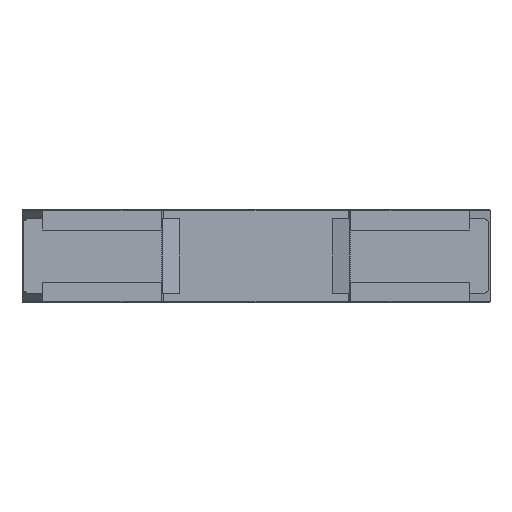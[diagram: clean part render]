
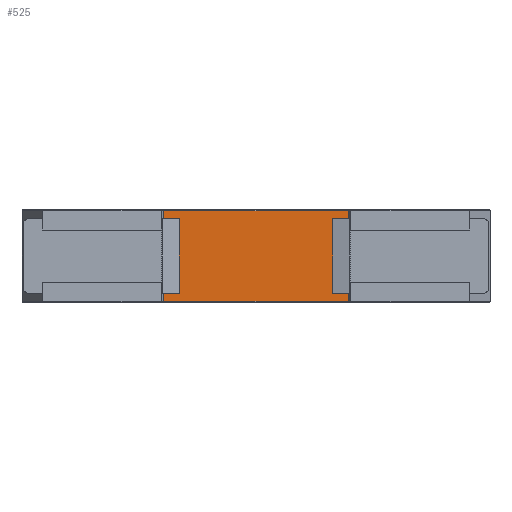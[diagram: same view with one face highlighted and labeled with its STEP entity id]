
A CAD part, front view. The second image highlights one B-rep face of the part: STEP entity #525.
In plain terms, the highlighted planar face has unit normal (0, -1, 0).
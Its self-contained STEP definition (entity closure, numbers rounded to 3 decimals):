
#479 = VECTOR ( 'NONE', #8931, 1000. ) ;
#525 = ADVANCED_FACE ( 'NONE', ( #3155 ), #9615, .F. ) ;
#554 = VECTOR ( 'NONE', #14030, 1000. ) ;
#752 = EDGE_CURVE ( 'NONE', #12938, #9794, #16422, .T. ) ;
#778 = ORIENTED_EDGE ( 'NONE', *, *, #9139, .T. ) ;
#1363 = EDGE_CURVE ( 'NONE', #9794, #19087, #16598, .T. ) ;
#1454 = LINE ( 'NONE', #9034, #14130 ) ;
#1535 = CARTESIAN_POINT ( 'NONE',  ( -17.5, 0., 8.9 ) ) ;
#2019 = CARTESIAN_POINT ( 'NONE',  ( -17.5, 0., 7.15 ) ) ;
#2022 = EDGE_CURVE ( 'NONE', #6781, #7654, #11041, .T. ) ;
#2251 = DIRECTION ( 'NONE',  ( -1., 0., 0. ) ) ;
#2781 = CARTESIAN_POINT ( 'NONE',  ( 44.75, 0., -7.15 ) ) ;
#3000 = VECTOR ( 'NONE', #13904, 1000. ) ;
#3155 = FACE_OUTER_BOUND ( 'NONE', #17018, .T. ) ;
#3334 = LINE ( 'NONE', #13974, #4479 ) ;
#3712 = CARTESIAN_POINT ( 'NONE',  ( 17.5, 0., 7.15 ) ) ;
#3923 = LINE ( 'NONE', #7839, #3000 ) ;
#4163 = VECTOR ( 'NONE', #2251, 1000. ) ;
#4327 = VERTEX_POINT ( 'NONE', #6510 ) ;
#4476 = DIRECTION ( 'NONE',  ( 0., 0., -1. ) ) ;
#4479 = VECTOR ( 'NONE', #11068, 1000. ) ;
#4617 = LINE ( 'NONE', #8024, #554 ) ;
#4785 = CARTESIAN_POINT ( 'NONE',  ( -17.5, 0., -7.15 ) ) ;
#5041 = VECTOR ( 'NONE', #18084, 1000. ) ;
#5197 = VECTOR ( 'NONE', #4476, 1000. ) ;
#5318 = VECTOR ( 'NONE', #8659, 1000. ) ;
#5469 = VERTEX_POINT ( 'NONE', #16382 ) ;
#5486 = ORIENTED_EDGE ( 'NONE', *, *, #17081, .T. ) ;
#5624 = CARTESIAN_POINT ( 'NONE',  ( 17.75, 0., 8.9 ) ) ;
#6354 = VECTOR ( 'NONE', #17531, 1000. ) ;
#6367 = CARTESIAN_POINT ( 'NONE',  ( -17.75, 0., 8.7 ) ) ;
#6510 = CARTESIAN_POINT ( 'NONE',  ( 17.5, 0., -7.15 ) ) ;
#6604 = CARTESIAN_POINT ( 'NONE',  ( 17.75, 0., -8.7 ) ) ;
#6648 = LINE ( 'NONE', #1535, #5041 ) ;
#6733 = ORIENTED_EDGE ( 'NONE', *, *, #12045, .F. ) ;
#6781 = VERTEX_POINT ( 'NONE', #6604 ) ;
#6798 = CARTESIAN_POINT ( 'NONE',  ( 17.75, 0., 7.15 ) ) ;
#6868 = EDGE_CURVE ( 'NONE', #18449, #12375, #18596, .T. ) ;
#7276 = ORIENTED_EDGE ( 'NONE', *, *, #14236, .F. ) ;
#7322 = EDGE_CURVE ( 'NONE', #6781, #5469, #4617, .T. ) ;
#7400 = CARTESIAN_POINT ( 'NONE',  ( 17.75, 0., 8.9 ) ) ;
#7654 = VERTEX_POINT ( 'NONE', #14080 ) ;
#7839 = CARTESIAN_POINT ( 'NONE',  ( -17.75, 0., -7.15 ) ) ;
#7896 = VERTEX_POINT ( 'NONE', #19103 ) ;
#8024 = CARTESIAN_POINT ( 'NONE',  ( -17.75, 0., -8.7 ) ) ;
#8052 = EDGE_CURVE ( 'NONE', #13827, #18449, #6648, .T. ) ;
#8129 = ORIENTED_EDGE ( 'NONE', *, *, #752, .F. ) ;
#8602 = ORIENTED_EDGE ( 'NONE', *, *, #11721, .T. ) ;
#8659 = DIRECTION ( 'NONE',  ( 0., 0., -1. ) ) ;
#8810 = VERTEX_POINT ( 'NONE', #3712 ) ;
#8931 = DIRECTION ( 'NONE',  ( 1., 0., 0. ) ) ;
#9034 = CARTESIAN_POINT ( 'NONE',  ( -44.75, 0., -7.15 ) ) ;
#9139 = EDGE_CURVE ( 'NONE', #7654, #4327, #19105, .T. ) ;
#9615 = PLANE ( 'NONE',  #9948 ) ;
#9794 = VERTEX_POINT ( 'NONE', #13807 ) ;
#9948 = AXIS2_PLACEMENT_3D ( 'NONE', #15500, #17284, #18759 ) ;
#10052 = VECTOR ( 'NONE', #19184, 1000. ) ;
#10300 = DIRECTION ( 'NONE',  ( -1., 0., 0. ) ) ;
#11041 = LINE ( 'NONE', #5624, #6354 ) ;
#11068 = DIRECTION ( 'NONE',  ( 0., 0., -1. ) ) ;
#11452 = CARTESIAN_POINT ( 'NONE',  ( -17.75, 0., 7.15 ) ) ;
#11721 = EDGE_CURVE ( 'NONE', #7896, #5469, #3334, .T. ) ;
#11801 = CARTESIAN_POINT ( 'NONE',  ( 17.5, 0., 8.9 ) ) ;
#12045 = EDGE_CURVE ( 'NONE', #19087, #8810, #15637, .T. ) ;
#12375 = VERTEX_POINT ( 'NONE', #12544 ) ;
#12544 = CARTESIAN_POINT ( 'NONE',  ( -17.75, 0., 7.15 ) ) ;
#12938 = VERTEX_POINT ( 'NONE', #6367 ) ;
#13727 = LINE ( 'NONE', #11801, #5318 ) ;
#13807 = CARTESIAN_POINT ( 'NONE',  ( 17.75, 0., 8.7 ) ) ;
#13827 = VERTEX_POINT ( 'NONE', #4785 ) ;
#13904 = DIRECTION ( 'NONE',  ( 0., 0., -1. ) ) ;
#13974 = CARTESIAN_POINT ( 'NONE',  ( -17.75, 0., -7.15 ) ) ;
#14030 = DIRECTION ( 'NONE',  ( -1., 0., 0. ) ) ;
#14080 = CARTESIAN_POINT ( 'NONE',  ( 17.75, 0., -7.15 ) ) ;
#14130 = VECTOR ( 'NONE', #15073, 1000. ) ;
#14221 = ORIENTED_EDGE ( 'NONE', *, *, #8052, .F. ) ;
#14236 = EDGE_CURVE ( 'NONE', #8810, #4327, #13727, .T. ) ;
#15073 = DIRECTION ( 'NONE',  ( -1., 0., 0. ) ) ;
#15500 = CARTESIAN_POINT ( 'NONE',  ( -17.75, 0., 8.9 ) ) ;
#15637 = LINE ( 'NONE', #16277, #18217 ) ;
#16073 = ORIENTED_EDGE ( 'NONE', *, *, #1363, .F. ) ;
#16277 = CARTESIAN_POINT ( 'NONE',  ( 44.75, 0., 7.15 ) ) ;
#16382 = CARTESIAN_POINT ( 'NONE',  ( -17.75, 0., -8.7 ) ) ;
#16422 = LINE ( 'NONE', #19132, #479 ) ;
#16598 = LINE ( 'NONE', #7400, #5197 ) ;
#16760 = ORIENTED_EDGE ( 'NONE', *, *, #18890, .T. ) ;
#17018 = EDGE_LOOP ( 'NONE', ( #16760, #8602, #17215, #18873, #778, #7276, #6733, #16073, #8129, #5486, #19435, #14221 ) ) ;
#17081 = EDGE_CURVE ( 'NONE', #12938, #12375, #3923, .T. ) ;
#17215 = ORIENTED_EDGE ( 'NONE', *, *, #7322, .F. ) ;
#17284 = DIRECTION ( 'NONE',  ( 0., 1., 0. ) ) ;
#17531 = DIRECTION ( 'NONE',  ( 0., 0., 1. ) ) ;
#18084 = DIRECTION ( 'NONE',  ( 0., 0., 1. ) ) ;
#18217 = VECTOR ( 'NONE', #10300, 1000. ) ;
#18449 = VERTEX_POINT ( 'NONE', #2019 ) ;
#18596 = LINE ( 'NONE', #11452, #4163 ) ;
#18759 = DIRECTION ( 'NONE',  ( 1., 0., 0. ) ) ;
#18873 = ORIENTED_EDGE ( 'NONE', *, *, #2022, .T. ) ;
#18890 = EDGE_CURVE ( 'NONE', #13827, #7896, #1454, .T. ) ;
#19087 = VERTEX_POINT ( 'NONE', #6798 ) ;
#19103 = CARTESIAN_POINT ( 'NONE',  ( -17.75, 0., -7.15 ) ) ;
#19105 = LINE ( 'NONE', #2781, #10052 ) ;
#19132 = CARTESIAN_POINT ( 'NONE',  ( 0., 0., 8.7 ) ) ;
#19184 = DIRECTION ( 'NONE',  ( -1., 0., 0. ) ) ;
#19435 = ORIENTED_EDGE ( 'NONE', *, *, #6868, .F. ) ;
